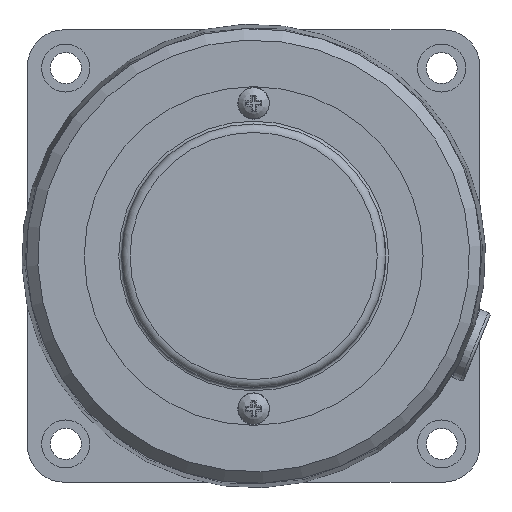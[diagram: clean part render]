
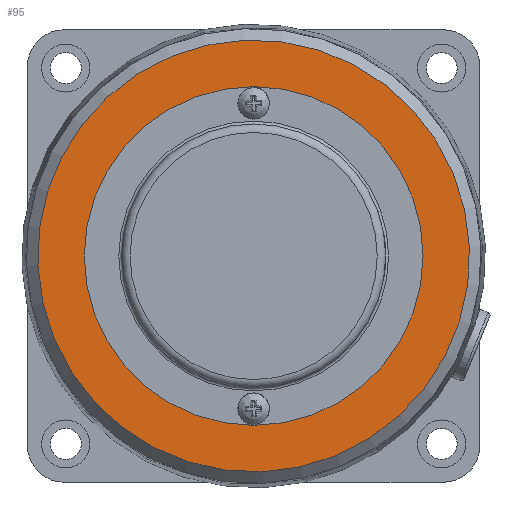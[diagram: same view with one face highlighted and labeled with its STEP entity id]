
A CAD part, left-side view. The second image highlights one B-rep face of the part: STEP entity #95.
In plain terms, the highlighted planar face has unit normal (-1, 0, 0).
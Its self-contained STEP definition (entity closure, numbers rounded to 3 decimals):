
#68=CARTESIAN_POINT('',(-38.5,0.,0.));
#69=DIRECTION('',(-1.0,0.0,0.0));
#70=DIRECTION('',(0.0,0.999,-0.043));
#71=AXIS2_PLACEMENT_3D('',#68,#69,#70);
#72=PLANE('',#71);
#73=CARTESIAN_POINT('',(-38.5,-38.144,1.659));
#74=VERTEX_POINT('',#73);
#75=CARTESIAN_POINT('',(-38.5,0.,0.));
#76=DIRECTION('',(1.0,0.,0.));
#77=DIRECTION('',(0.,0.999,-0.043));
#78=AXIS2_PLACEMENT_3D('',#75,#76,#77);
#79=CIRCLE('',#78,38.18);
#80=EDGE_CURVE('',#74,#74,#79,.T.);
#81=ORIENTED_EDGE('',*,*,#80,.F.);
#82=EDGE_LOOP('',(#81));
#83=FACE_OUTER_BOUND('',#82,.T.);
#84=CARTESIAN_POINT('',(-38.5,0.,29.95));
#85=VERTEX_POINT('',#84);
#86=CARTESIAN_POINT('',(-38.5,0.,0.));
#87=DIRECTION('',(-1.0,0.0,0.0));
#88=DIRECTION('',(0.0,0.0,-1.0));
#89=AXIS2_PLACEMENT_3D('',#86,#87,#88);
#90=CIRCLE('',#89,29.95);
#91=EDGE_CURVE('',#85,#85,#90,.T.);
#92=ORIENTED_EDGE('',*,*,#91,.F.);
#93=EDGE_LOOP('',(#92));
#94=FACE_BOUND('',#93,.T.);
#95=ADVANCED_FACE('',(#83,#94),#72,.T.);
